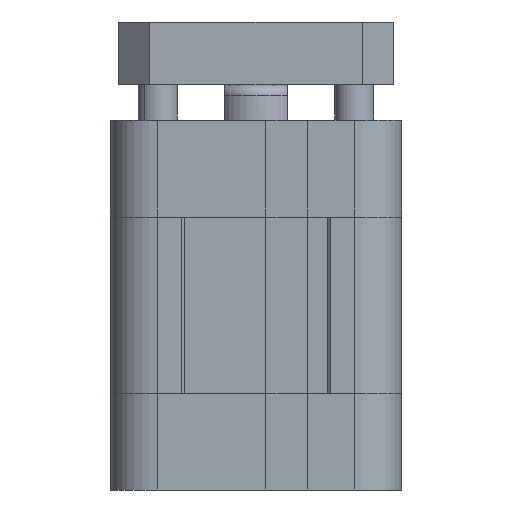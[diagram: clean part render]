
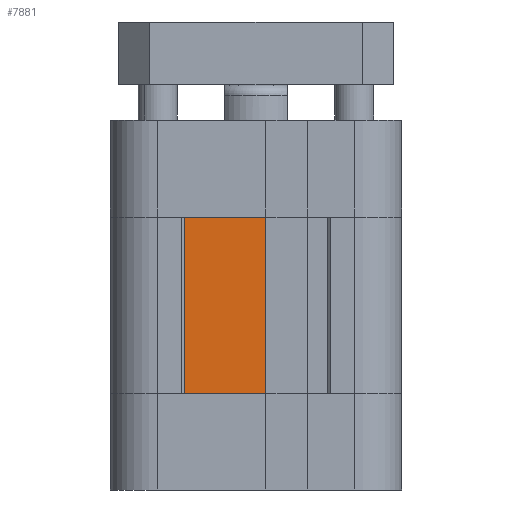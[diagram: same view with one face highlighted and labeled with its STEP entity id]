
A CAD part, front view. The second image highlights one B-rep face of the part: STEP entity #7881.
In plain terms, the highlighted planar face has unit normal (0, -1, 0).
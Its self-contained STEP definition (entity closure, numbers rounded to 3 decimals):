
#5173 = VERTEX_POINT ( 'NONE', #11676 ) ;
#5175 = EDGE_CURVE ( 'NONE', #5173, #5176, #11675, .T. ) ;
#5176 = VERTEX_POINT ( 'NONE', #11671 ) ;
#7747 = EDGE_CURVE ( 'NONE', #7748, #7773, #19428, .T. ) ;
#7748 = VERTEX_POINT ( 'NONE', #19424 ) ;
#7773 = VERTEX_POINT ( 'NONE', #19504 ) ;
#7878 = EDGE_CURVE ( 'NONE', #5173, #7748, #19660, .T. ) ;
#7881 = ADVANCED_FACE ( 'NONE', ( #19656 ), #19654, .F. ) ;
#7882 = EDGE_LOOP ( 'NONE', ( #7883, #7884, #7886, #7887 ) ) ;
#7883 = ORIENTED_EDGE ( 'NONE', *, *, #7747, .T. ) ;
#7884 = ORIENTED_EDGE ( 'NONE', *, *, #7885, .F. ) ;
#7885 = EDGE_CURVE ( 'NONE', #5176, #7773, #19655, .T. ) ;
#7886 = ORIENTED_EDGE ( 'NONE', *, *, #5175, .F. ) ;
#7887 = ORIENTED_EDGE ( 'NONE', *, *, #7878, .T. ) ;
#11671 = CARTESIAN_POINT ( 'NONE',  ( 9.1, -18.1, 22.4 ) ) ;
#11672 = DIRECTION ( 'NONE',  ( 1., 0., 0. ) ) ;
#11673 = VECTOR ( 'NONE', #11672, 1000. ) ;
#11674 = CARTESIAN_POINT ( 'NONE',  ( -1.25, -18.1, 22.4 ) ) ;
#11675 = LINE ( 'NONE', #11674, #11673 ) ;
#11676 = CARTESIAN_POINT ( 'NONE',  ( -1.25, -18.1, 22.4 ) ) ;
#19424 = CARTESIAN_POINT ( 'NONE',  ( -1.25, -18.1, 0. ) ) ;
#19425 = DIRECTION ( 'NONE',  ( 1., 0., 0. ) ) ;
#19426 = VECTOR ( 'NONE', #19425, 1000. ) ;
#19427 = CARTESIAN_POINT ( 'NONE',  ( -1.25, -18.1, 0. ) ) ;
#19428 = LINE ( 'NONE', #19427, #19426 ) ;
#19504 = CARTESIAN_POINT ( 'NONE',  ( 9.1, -18.1, 0. ) ) ;
#19647 = DIRECTION ( 'NONE',  ( 0., 0., -1. ) ) ;
#19648 = VECTOR ( 'NONE', #19647, 1000. ) ;
#19649 = CARTESIAN_POINT ( 'NONE',  ( 9.1, -18.1, 22.4 ) ) ;
#19650 = DIRECTION ( 'NONE',  ( -1., 0., 0. ) ) ;
#19651 = DIRECTION ( 'NONE',  ( 0., 1., 0. ) ) ;
#19652 = CARTESIAN_POINT ( 'NONE',  ( -1.25, -18.1, 22.4 ) ) ;
#19653 = AXIS2_PLACEMENT_3D ( 'NONE', #19652, #19651, #19650 ) ;
#19654 = PLANE ( 'NONE',  #19653 ) ;
#19655 = LINE ( 'NONE', #19649, #19648 ) ;
#19656 = FACE_OUTER_BOUND ( 'NONE', #7882, .T. ) ;
#19657 = DIRECTION ( 'NONE',  ( 0., 0., -1. ) ) ;
#19658 = VECTOR ( 'NONE', #19657, 1000. ) ;
#19659 = CARTESIAN_POINT ( 'NONE',  ( -1.25, -18.1, 22.4 ) ) ;
#19660 = LINE ( 'NONE', #19659, #19658 ) ;
